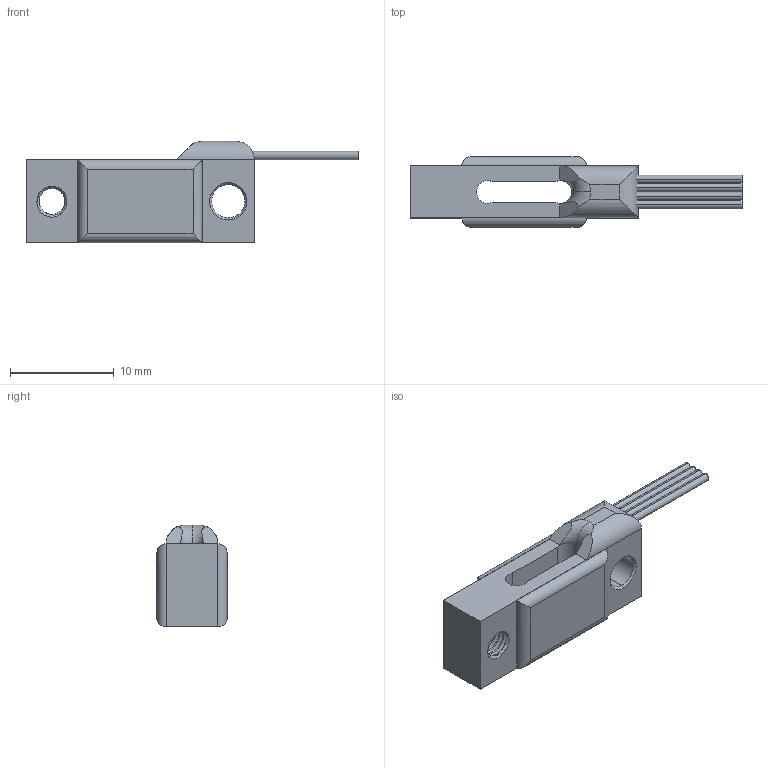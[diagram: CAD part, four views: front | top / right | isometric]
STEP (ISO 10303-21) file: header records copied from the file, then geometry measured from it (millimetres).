
FILE_DESCRIPTION (( 'STEP AP203' ), '1' );
FILE_NAME ('LCE02.STEP', '2024-11-14T08:08:20', ( '' ), ( '' ), 'SwSTEP 2.0', 'SolidWorks 2019', '' );
FILE_SCHEMA (( 'CONFIG_CONTROL_DESIGN' ));
Length unit declared in the file: millimetre
Products named in the file (1): LCE02
Bounding box: 32 x 6.8 x 9.8 mm (x, y, z)
Volume: 896.9 mm3; surface area: 1514 mm2
Topology: 8 solids, 8 shells, 87 faces, 204 edges, 133 vertices
Faces by surface type: cylinder 44, plane 29, cone 9, bspline 3, torus 2
Entity records: 4434 total; most frequent: CARTESIAN_POINT 2515, ORIENTED_EDGE 408, DIRECTION 350, EDGE_CURVE 204, VERTEX_POINT 133, AXIS2_PLACEMENT_3D 129, EDGE_LOOP 93, VECTOR 92
